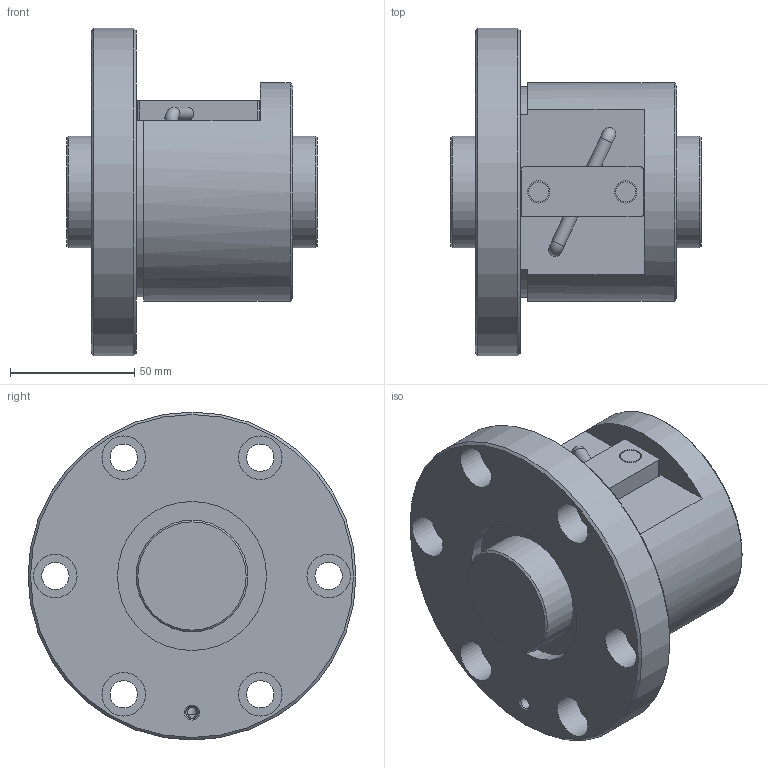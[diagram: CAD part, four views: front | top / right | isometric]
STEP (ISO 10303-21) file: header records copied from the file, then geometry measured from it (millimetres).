
FILE_DESCRIPTION(/* description */ ('STEP AP203'),/* implementation_level */ '2;1');
FILE_NAME(/* name */ 'BNF4510V-2.5RRG1+101LC0_000_rev',/* time_stamp */ '2024-08-06T08:54:34+02:00',/* author */ ('License CC BY-ND 4.0'),/* organization */ ('CADENAS'),/* preprocessor_version */ 'ST-DEVELOPER v19.3',/* originating_system */ 'PARTsolutions',/* authorisation */ ' ');
FILE_SCHEMA (('CONFIG_CONTROL_DESIGN'));
Length unit declared in the file: millimetre
Products named in the file (3): BNF4510V-2.5RRG1+101LC0_000_rev; BNF 4510-2.5RR000 Shaft; BNF 4510-2.5RR Nut
Assembly tree (2 placements, depth 2):
  BNF4510V-2.5RRG1+101LC0_000_rev
    BNF 4510-2.5RR000 Shaft
    BNF 4510-2.5RR Nut
Bounding box: 101 x 132 x 132 mm (x, y, z)
Volume: 599148.6 mm3; surface area: 85806.8 mm2
Topology: 2 solids, 2 shells, 69 faces, 148 edges, 96 vertices
Faces by surface type: cylinder 33, plane 27, cone 7, torus 2
Full cylindrical faces by diameter (mm): 4.5 x2, 4.917 x1, 5.331 x2, 8 x2, 9 x2, 11 x6, 17.5 x6, 45 x2, 60 x2, 88 x1, 132 x1
Entity records: 1755 total; most frequent: DIRECTION 312, CARTESIAN_POINT 296, ORIENTED_EDGE 200, AXIS2_PLACEMENT_3D 144, EDGE_LOOP 140, FACE_BOUND 140, EDGE_CURVE 100, VERTEX_POINT 86
